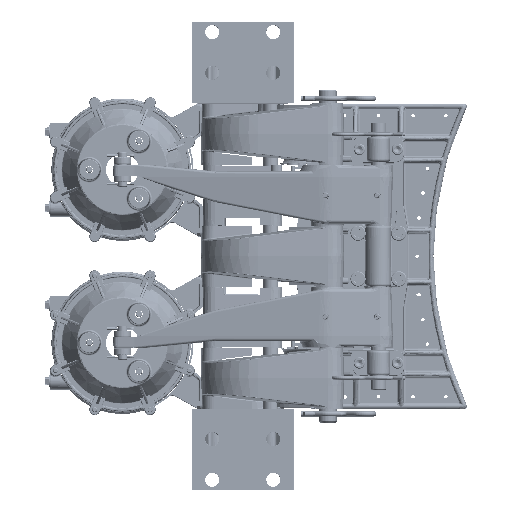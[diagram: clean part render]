
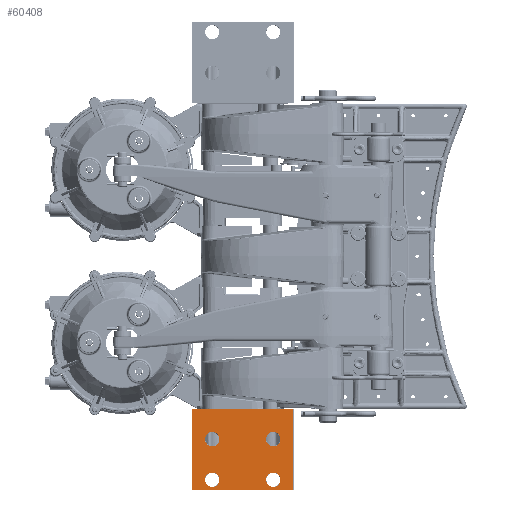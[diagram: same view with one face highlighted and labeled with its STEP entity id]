
A CAD part, top view. The second image highlights one B-rep face of the part: STEP entity #60408.
In plain terms, the highlighted planar face has unit normal (0, 0, 1).
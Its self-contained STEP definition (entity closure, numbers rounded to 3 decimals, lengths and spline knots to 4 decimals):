
#2801 = EDGE_LOOP ( 'NONE', ( #7267, #237813 ) ) ;
#3023 = AXIS2_PLACEMENT_3D ( 'NONE', #324409, #321062, #273185 ) ;
#5085 = CARTESIAN_POINT ( 'NONE',  ( -1.4445, -9., 7.5 ) ) ;
#7267 = ORIENTED_EDGE ( 'NONE', *, *, #69301, .T. ) ;
#7832 = VECTOR ( 'NONE', #36722, 39.3701 ) ;
#8870 = VERTEX_POINT ( 'NONE', #168221 ) ;
#9154 = CIRCLE ( 'NONE', #3023, 0.3538 ) ;
#14045 = ORIENTED_EDGE ( 'NONE', *, *, #182254, .T. ) ;
#16336 = EDGE_LOOP ( 'NONE', ( #125955, #228343 ) ) ;
#16479 = AXIS2_PLACEMENT_3D ( 'NONE', #141171, #91611, #322182 ) ;
#18760 = VERTEX_POINT ( 'NONE', #64618 ) ;
#31079 = CARTESIAN_POINT ( 'NONE',  ( -4.4445, -11., 7.5 ) ) ;
#34210 = CARTESIAN_POINT ( 'NONE',  ( -5.0707, -11.48, 7.5 ) ) ;
#35645 = PLANE ( 'NONE',  #214020 ) ;
#36722 = DIRECTION ( 'NONE',  ( 0., -1., 0. ) ) ;
#39488 = ORIENTED_EDGE ( 'NONE', *, *, #72684, .T. ) ;
#42322 = AXIS2_PLACEMENT_3D ( 'NONE', #188317, #239578, #319821 ) ;
#44997 = CARTESIAN_POINT ( 'NONE',  ( -0.737, -9., 7.5 ) ) ;
#45907 = DIRECTION ( 'NONE',  ( 0., 0., -1. ) ) ;
#46864 = CARTESIAN_POINT ( 'NONE',  ( -0.1107, -11.48, 7.5 ) ) ;
#54616 = CARTESIAN_POINT ( 'NONE',  ( -1.0907, -9., 7.5 ) ) ;
#60408 = ADVANCED_FACE ( 'NONE', ( #115893, #219990, #272974, #216657, #86896 ), #35645, .F. ) ;
#61988 = EDGE_CURVE ( 'NONE', #165981, #69904, #337871, .T. ) ;
#64604 = DIRECTION ( 'NONE',  ( 1., 0., 0. ) ) ;
#64618 = CARTESIAN_POINT ( 'NONE',  ( -0.1107, -7.5, 7.5 ) ) ;
#68905 = LINE ( 'NONE', #251650, #297782 ) ;
#69301 = EDGE_CURVE ( 'NONE', #107343, #333183, #95859, .T. ) ;
#69904 = VERTEX_POINT ( 'NONE', #46864 ) ;
#71228 = AXIS2_PLACEMENT_3D ( 'NONE', #279898, #45907, #245835 ) ;
#72684 = EDGE_CURVE ( 'NONE', #69904, #18760, #198208, .T. ) ;
#74727 = EDGE_CURVE ( 'NONE', #321855, #84161, #261957, .T. ) ;
#79732 = DIRECTION ( 'NONE',  ( 0., 0., -1. ) ) ;
#84161 = VERTEX_POINT ( 'NONE', #31079 ) ;
#86896 = FACE_OUTER_BOUND ( 'NONE', #287346, .T. ) ;
#91611 = DIRECTION ( 'NONE',  ( 0., 0., -1. ) ) ;
#93173 = CIRCLE ( 'NONE', #71228, 0.3538 ) ;
#93911 = DIRECTION ( 'NONE',  ( 0., 0., -1. ) ) ;
#95859 = CIRCLE ( 'NONE', #188457, 0.3538 ) ;
#97283 = DIRECTION ( 'NONE',  ( 1., 0., 0. ) ) ;
#100861 = CIRCLE ( 'NONE', #324335, 0.3538 ) ;
#103943 = DIRECTION ( 'NONE',  ( 1., 0., 0. ) ) ;
#104800 = AXIS2_PLACEMENT_3D ( 'NONE', #256066, #93911, #97283 ) ;
#107343 = VERTEX_POINT ( 'NONE', #308489 ) ;
#107708 = CIRCLE ( 'NONE', #42322, 0.3538 ) ;
#108586 = LINE ( 'NONE', #164850, #7832 ) ;
#115893 = FACE_BOUND ( 'NONE', #2801, .T. ) ;
#117424 = DIRECTION ( 'NONE',  ( 1., 0., 0. ) ) ;
#118860 = EDGE_CURVE ( 'NONE', #239121, #239474, #100861, .T. ) ;
#119698 = CARTESIAN_POINT ( 'NONE',  ( -0.1107, -11.5, 7.5 ) ) ;
#122882 = EDGE_CURVE ( 'NONE', #333183, #107343, #9154, .T. ) ;
#124162 = EDGE_LOOP ( 'NONE', ( #297155, #178572 ) ) ;
#125955 = ORIENTED_EDGE ( 'NONE', *, *, #131805, .T. ) ;
#129887 = DIRECTION ( 'NONE',  ( 1., 0., 0. ) ) ;
#130450 = ORIENTED_EDGE ( 'NONE', *, *, #74727, .T. ) ;
#131805 = EDGE_CURVE ( 'NONE', #239474, #239121, #93173, .T. ) ;
#141171 = CARTESIAN_POINT ( 'NONE',  ( -4.0907, -11., 7.5 ) ) ;
#143178 = VERTEX_POINT ( 'NONE', #197026 ) ;
#145287 = DIRECTION ( 'NONE',  ( 0., 1., 0. ) ) ;
#145793 = EDGE_CURVE ( 'NONE', #84161, #321855, #301772, .T. ) ;
#147899 = ORIENTED_EDGE ( 'NONE', *, *, #61988, .T. ) ;
#149317 = EDGE_LOOP ( 'NONE', ( #130450, #218869 ) ) ;
#164850 = CARTESIAN_POINT ( 'NONE',  ( -5.0707, -11.5, 7.5 ) ) ;
#165981 = VERTEX_POINT ( 'NONE', #34210 ) ;
#168221 = CARTESIAN_POINT ( 'NONE',  ( -4.4445, -9., 7.5 ) ) ;
#171811 = EDGE_CURVE ( 'NONE', #143178, #8870, #107708, .T. ) ;
#173960 = VECTOR ( 'NONE', #145287, 39.3701 ) ;
#175946 = CARTESIAN_POINT ( 'NONE',  ( -5.0707, -7.5, 7.5 ) ) ;
#178572 = ORIENTED_EDGE ( 'NONE', *, *, #227411, .T. ) ;
#182254 = EDGE_CURVE ( 'NONE', #198312, #165981, #108586, .T. ) ;
#185554 = CARTESIAN_POINT ( 'NONE',  ( -4.0907, -11., 7.5 ) ) ;
#188317 = CARTESIAN_POINT ( 'NONE',  ( -4.0907, -9., 7.5 ) ) ;
#188457 = AXIS2_PLACEMENT_3D ( 'NONE', #276207, #248857, #117424 ) ;
#197026 = CARTESIAN_POINT ( 'NONE',  ( -3.737, -9., 7.5 ) ) ;
#198208 = LINE ( 'NONE', #119698, #173960 ) ;
#198312 = VERTEX_POINT ( 'NONE', #175946 ) ;
#214020 = AXIS2_PLACEMENT_3D ( 'NONE', #324200, #298611, #64604 ) ;
#216657 = FACE_BOUND ( 'NONE', #149317, .T. ) ;
#218869 = ORIENTED_EDGE ( 'NONE', *, *, #145793, .T. ) ;
#219990 = FACE_BOUND ( 'NONE', #16336, .T. ) ;
#226895 = ORIENTED_EDGE ( 'NONE', *, *, #276614, .T. ) ;
#227411 = EDGE_CURVE ( 'NONE', #8870, #143178, #333919, .T. ) ;
#228343 = ORIENTED_EDGE ( 'NONE', *, *, #118860, .T. ) ;
#237813 = ORIENTED_EDGE ( 'NONE', *, *, #122882, .T. ) ;
#239121 = VERTEX_POINT ( 'NONE', #5085 ) ;
#239474 = VERTEX_POINT ( 'NONE', #44997 ) ;
#239578 = DIRECTION ( 'NONE',  ( 0., 0., -1. ) ) ;
#245835 = DIRECTION ( 'NONE',  ( 1., 0., 0. ) ) ;
#248857 = DIRECTION ( 'NONE',  ( 0., 0., -1. ) ) ;
#251650 = CARTESIAN_POINT ( 'NONE',  ( -0.0907, -7.5, 7.5 ) ) ;
#256066 = CARTESIAN_POINT ( 'NONE',  ( -4.0907, -9., 7.5 ) ) ;
#261957 = CIRCLE ( 'NONE', #16479, 0.3538 ) ;
#266648 = CARTESIAN_POINT ( 'NONE',  ( -3.737, -11., 7.5 ) ) ;
#269098 = AXIS2_PLACEMENT_3D ( 'NONE', #185554, #79732, #310358 ) ;
#272974 = FACE_BOUND ( 'NONE', #124162, .T. ) ;
#273185 = DIRECTION ( 'NONE',  ( 1., 0., 0. ) ) ;
#276207 = CARTESIAN_POINT ( 'NONE',  ( -1.0907, -11., 7.5 ) ) ;
#276614 = EDGE_CURVE ( 'NONE', #18760, #198312, #68905, .T. ) ;
#277309 = DIRECTION ( 'NONE',  ( -1., 0., 0. ) ) ;
#279898 = CARTESIAN_POINT ( 'NONE',  ( -1.0907, -9., 7.5 ) ) ;
#284936 = CARTESIAN_POINT ( 'NONE',  ( -0.0907, -11.48, 7.5 ) ) ;
#286627 = CARTESIAN_POINT ( 'NONE',  ( -1.4445, -11., 7.5 ) ) ;
#287346 = EDGE_LOOP ( 'NONE', ( #147899, #39488, #226895, #14045 ) ) ;
#297155 = ORIENTED_EDGE ( 'NONE', *, *, #171811, .T. ) ;
#297782 = VECTOR ( 'NONE', #277309, 39.3701 ) ;
#298611 = DIRECTION ( 'NONE',  ( 0., 0., -1. ) ) ;
#300488 = VECTOR ( 'NONE', #103943, 39.3701 ) ;
#301772 = CIRCLE ( 'NONE', #269098, 0.3538 ) ;
#308489 = CARTESIAN_POINT ( 'NONE',  ( -0.737, -11., 7.5 ) ) ;
#310358 = DIRECTION ( 'NONE',  ( 1., 0., 0. ) ) ;
#319821 = DIRECTION ( 'NONE',  ( 1., 0., 0. ) ) ;
#321062 = DIRECTION ( 'NONE',  ( 0., 0., -1. ) ) ;
#321855 = VERTEX_POINT ( 'NONE', #266648 ) ;
#322182 = DIRECTION ( 'NONE',  ( 1., 0., 0. ) ) ;
#324200 = CARTESIAN_POINT ( 'NONE',  ( -0.0907, -11.5, 7.5 ) ) ;
#324335 = AXIS2_PLACEMENT_3D ( 'NONE', #54616, #333116, #129887 ) ;
#324409 = CARTESIAN_POINT ( 'NONE',  ( -1.0907, -11., 7.5 ) ) ;
#333116 = DIRECTION ( 'NONE',  ( 0., 0., -1. ) ) ;
#333183 = VERTEX_POINT ( 'NONE', #286627 ) ;
#333919 = CIRCLE ( 'NONE', #104800, 0.3538 ) ;
#337871 = LINE ( 'NONE', #284936, #300488 ) ;
